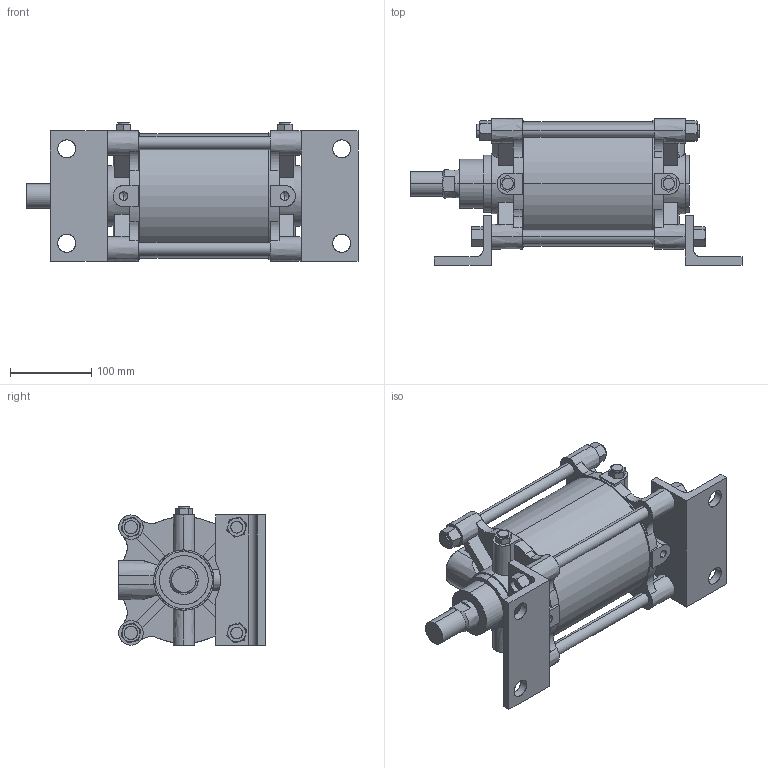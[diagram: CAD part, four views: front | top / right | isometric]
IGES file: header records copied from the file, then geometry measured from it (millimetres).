
Start section: SolidWorks IGES file using analytic representation for surfaces
Global section: file name: C:\Users\Toshiba\Desktop\A##2-140#-100-L.IGS; native system: SolidWorks 2014; preprocessor: SolidWorks 2014; author: Toshiba; date: 160331.145338; units: millimetre
Bounding box: 408 x 180 x 170 mm (x, y, z)
Surface area: 478111.9 mm2 (no closed solid volume)
Topology: 0 solids, 0 shells, 422 faces, 7700 edges, 7688 vertices
Faces by surface type: bspline 264, revolution 158
